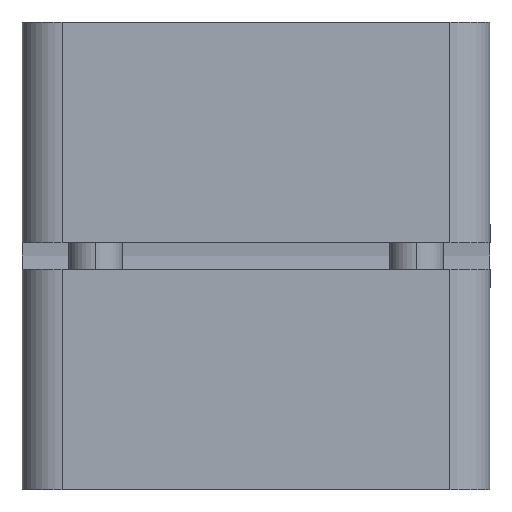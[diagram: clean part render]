
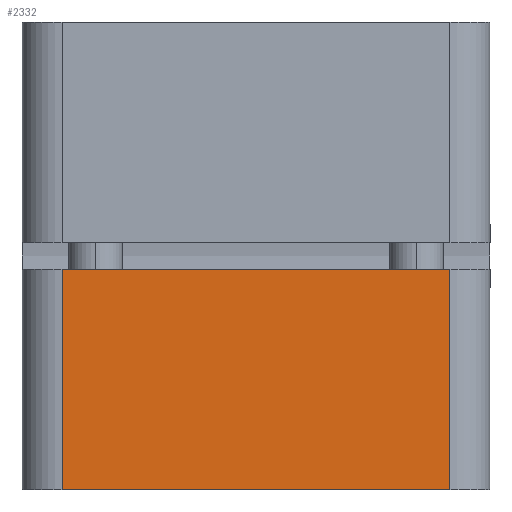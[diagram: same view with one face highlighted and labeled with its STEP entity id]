
A CAD part, left-side view. The second image highlights one B-rep face of the part: STEP entity #2332.
In plain terms, the highlighted planar face has unit normal (-1, 0, 0).
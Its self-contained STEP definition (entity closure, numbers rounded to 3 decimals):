
#401 = FACE_OUTER_BOUND ( 'NONE', #6412, .T. ) ;
#856 = DIRECTION ( 'NONE',  ( 0., 0., 1. ) ) ;
#1218 = LINE ( 'NONE', #6792, #7540 ) ;
#1321 = ORIENTED_EDGE ( 'NONE', *, *, #6135, .T. ) ;
#1576 = LINE ( 'NONE', #7839, #1988 ) ;
#1988 = VECTOR ( 'NONE', #7062, 1000. ) ;
#2135 = LINE ( 'NONE', #3984, #6765 ) ;
#2332 = ADVANCED_FACE ( 'NONE', ( #401 ), #8013, .F. ) ;
#2482 = DIRECTION ( 'NONE',  ( 0., -1., 0. ) ) ;
#3017 = EDGE_CURVE ( 'NONE', #5945, #4847, #2135, .T. ) ;
#3124 = AXIS2_PLACEMENT_3D ( 'NONE', #5356, #4739, #7235 ) ;
#3924 = CARTESIAN_POINT ( 'NONE',  ( -42., 14.5, 0. ) ) ;
#3984 = CARTESIAN_POINT ( 'NONE',  ( -42., -17.5, 0. ) ) ;
#4657 = LINE ( 'NONE', #7115, #5515 ) ;
#4739 = DIRECTION ( 'NONE',  ( 1., 0., 0. ) ) ;
#4847 = VERTEX_POINT ( 'NONE', #7412 ) ;
#5034 = CARTESIAN_POINT ( 'NONE',  ( -42., -14.5, 16.5 ) ) ;
#5133 = ORIENTED_EDGE ( 'NONE', *, *, #6928, .F. ) ;
#5356 = CARTESIAN_POINT ( 'NONE',  ( -42., -17.5, 35. ) ) ;
#5505 = VERTEX_POINT ( 'NONE', #5034 ) ;
#5515 = VECTOR ( 'NONE', #856, 1000. ) ;
#5669 = ORIENTED_EDGE ( 'NONE', *, *, #3017, .T. ) ;
#5945 = VERTEX_POINT ( 'NONE', #3924 ) ;
#6135 = EDGE_CURVE ( 'NONE', #4847, #5505, #4657, .T. ) ;
#6412 = EDGE_LOOP ( 'NONE', ( #1321, #5133, #6897, #5669 ) ) ;
#6415 = EDGE_CURVE ( 'NONE', #6817, #5945, #1576, .T. ) ;
#6521 = DIRECTION ( 'NONE',  ( 0., -1., 0. ) ) ;
#6765 = VECTOR ( 'NONE', #6521, 1000. ) ;
#6792 = CARTESIAN_POINT ( 'NONE',  ( -42., -17.5, 16.5 ) ) ;
#6817 = VERTEX_POINT ( 'NONE', #7938 ) ;
#6897 = ORIENTED_EDGE ( 'NONE', *, *, #6415, .T. ) ;
#6928 = EDGE_CURVE ( 'NONE', #6817, #5505, #1218, .T. ) ;
#7062 = DIRECTION ( 'NONE',  ( 0., 0., -1. ) ) ;
#7115 = CARTESIAN_POINT ( 'NONE',  ( -42., -14.5, 35. ) ) ;
#7235 = DIRECTION ( 'NONE',  ( 0., 0., -1. ) ) ;
#7412 = CARTESIAN_POINT ( 'NONE',  ( -42., -14.5, 0. ) ) ;
#7540 = VECTOR ( 'NONE', #2482, 1000. ) ;
#7839 = CARTESIAN_POINT ( 'NONE',  ( -42., 14.5, 35. ) ) ;
#7938 = CARTESIAN_POINT ( 'NONE',  ( -42., 14.5, 16.5 ) ) ;
#8013 = PLANE ( 'NONE',  #3124 ) ;
